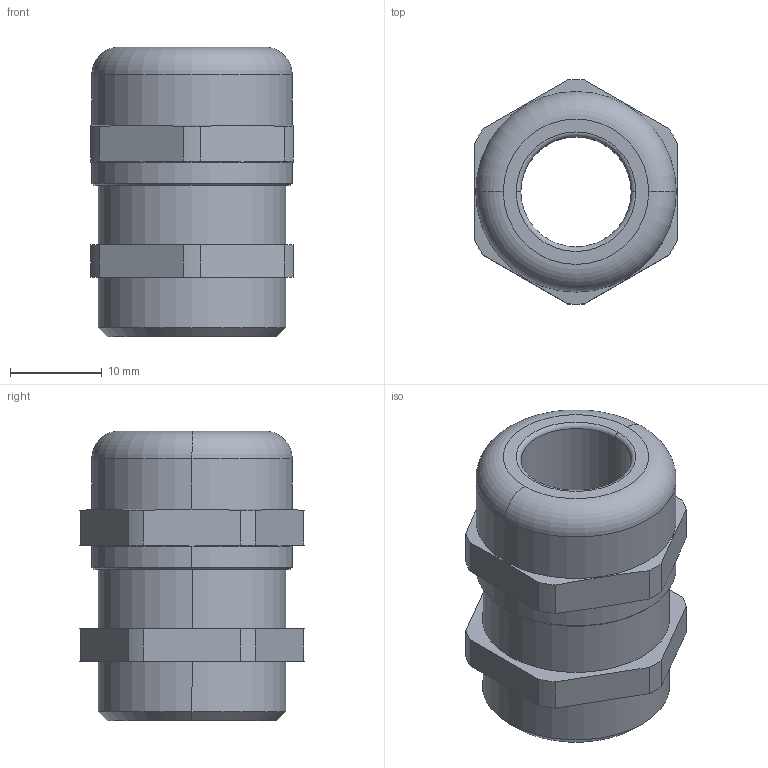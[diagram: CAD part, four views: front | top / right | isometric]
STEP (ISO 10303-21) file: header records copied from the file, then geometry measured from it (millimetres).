
FILE_DESCRIPTION (( 'STEP AP203' ), '1' );
FILE_NAME ('50.013.STEP', '2005-11-22T08:17:36', ( ' ' ), ( '' ), 'SwSTEP 2.0', 'SolidWorks 2005278', '' );
FILE_SCHEMA (( 'CONFIG_CONTROL_DESIGN' ));
Length unit declared in the file: millimetre
Products named in the file (1): 50.013
Bounding box: 22 x 24.39 x 31.5 mm (x, y, z)
Volume: 7752.8 mm3; surface area: 3966.7 mm2
Topology: 1 solids, 1 shells, 88 faces, 228 edges, 148 vertices
Faces by surface type: plane 54, cylinder 22, cone 8, torus 4
Entity records: 2777 total; most frequent: CARTESIAN_POINT 521, ORIENTED_EDGE 456, DIRECTION 446, EDGE_CURVE 228, LINE 156, VECTOR 156, VERTEX_POINT 148, AXIS2_PLACEMENT_3D 145
